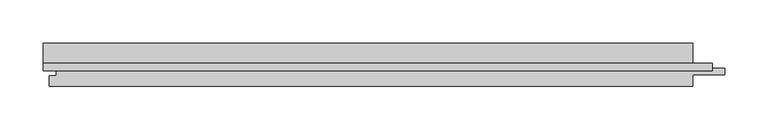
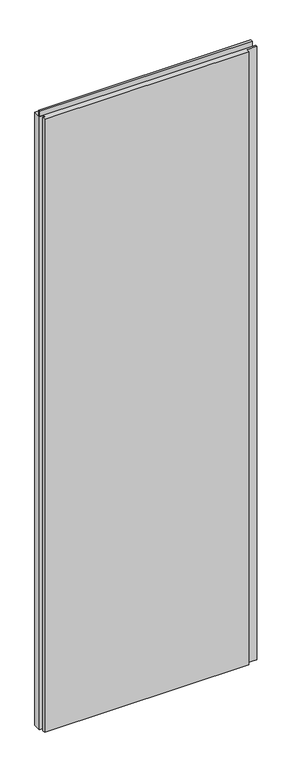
"""IFC4 building model written with IfcOpenShell, lengths in millimetres: plate geometry, Trimo_Qbiss Screen_Normal Panel-VERTICAL : HR - B."""

import ifcopenshell
import ifcopenshell.guid

model = None  # the IFC model being written
_history = None  # IfcOwnerHistory: only IFC2X3 demands one
_inside = {}  # id of a spatial element -> (the spatial element, [elements in it])
_under = {}  # id of a project, library or spatial element -> (it, [spatial elements below it])
_declared = {}  # id of a project -> (the project, [libraries it declares])
_typed = {}  # id of a type object -> (the type object, [elements of that type])
_made_of = {}  # id of a material, layer set ... -> (it, [elements and type objects made of it])


def new_model(schema):
    """Start an empty IFC model of exactly this schema.

    Asked for "IFC4X3", IfcOpenShell would pick the latest addendum, in which some entities
    have other attributes; the version numbers below select the first issue.
    IFC2X3 requires an IfcOwnerHistory on every rooted entity: one is made here for all.
    """
    global model, _history
    if schema == "IFC4X3":
        model = ifcopenshell.file(schema_version=(4, 3, 0, 0))
    else:
        model = ifcopenshell.file(schema=schema)
    _inside.clear()
    _under.clear()
    _declared.clear()
    _typed.clear()
    _made_of.clear()
    _history = None
    if model.schema == "IFC2X3":
        org = make("IfcOrganization", Name="unknown")
        user = make(
            "IfcPersonAndOrganization",
            ThePerson=make("IfcPerson", FamilyName="unknown"),
            TheOrganization=org,
        )
        app = make(
            "IfcApplication",
            ApplicationDeveloper=org,
            Version="unknown",
            ApplicationFullName="unknown",
            ApplicationIdentifier="unknown",
        )
        _history = make(
            "IfcOwnerHistory",
            OwningUser=user,
            OwningApplication=app,
            ChangeAction="ADDED",
            CreationDate=0,
        )
    return model


def make(cls, **values):
    """One entity of the class cls with the attributes given. An attribute that is None is left unset."""
    return model.create_entity(
        cls, **{name: value for name, value in values.items() if value is not None}
    )


def rooted(cls, **values):
    """An entity with a GlobalId (a new one), such as an element, a storey or a relation."""
    return make(cls, GlobalId=ifcopenshell.guid.new(), OwnerHistory=_history, **values)


def si_unit(unit_type, name, prefix=None):
    """IfcSIUnit, for example si_unit("LENGTHUNIT", "METRE", prefix="MILLI")."""
    return make("IfcSIUnit", UnitType=unit_type, Prefix=prefix, Name=name)


def assignment(units):
    """IfcUnitAssignment: the units of a project."""
    return None if units is None else make("IfcUnitAssignment", Units=units)


def point(xyz):
    """IfcCartesianPoint."""
    return None if xyz is None else make("IfcCartesianPoint", Coordinates=xyz)


def direction(xyz):
    """IfcDirection."""
    return None if xyz is None else make("IfcDirection", DirectionRatios=xyz)


def frame(location, z_axis=None, x_axis=None):
    """IfcAxis2Placement3D, a coordinate frame: its origin and axes. An axis left out is left unset."""
    return make(
        "IfcAxis2Placement3D",
        Location=point(location),
        Axis=direction(z_axis),
        RefDirection=direction(x_axis),
    )


def origin():
    """The frame at (0, 0, 0) with its axes left unset."""
    return frame((0.0, 0.0, 0.0))


def place(relative_to, where):
    """IfcLocalPlacement: puts the frame where relative to a parent placement (None: the world)."""
    return make(
        "IfcLocalPlacement", PlacementRelTo=relative_to, RelativePlacement=where
    )


def context(
    kind, dimensions, precision=None, world=None, true_north=None, identifier=None
):
    """IfcGeometricRepresentationContext, for example the 3D "Model" context."""
    return make(
        "IfcGeometricRepresentationContext",
        ContextIdentifier=identifier,
        ContextType=kind,
        CoordinateSpaceDimension=dimensions,
        Precision=precision,
        WorldCoordinateSystem=world,
        TrueNorth=true_north,
    )


def project(units=None, contexts=None):
    """IfcProject with its units and contexts."""
    return rooted(
        "IfcProject",
        Name="project",
        RepresentationContexts=contexts,
        UnitsInContext=assignment(units),
    )


def spatial(cls, under=None, at=None, **own):
    """A site, building, storey or space (cls), placed at a placement, below another one or the project."""
    s = rooted(cls, ObjectPlacement=at, **own)
    if under is not None:
        _under.setdefault(under.id(), (under, []))[1].append(s)
    return s


def polyline(points):
    """IfcPolyline through the points."""
    return make("IfcPolyline", Points=[point(p) for p in points])


def outline(outer, holes=None, kind="AREA"):
    """IfcArbitraryClosedProfileDef: a profile drawn as a closed curve; with holes, ...WithVoids."""
    if holes is None:
        return make("IfcArbitraryClosedProfileDef", ProfileType=kind, OuterCurve=outer)
    return make(
        "IfcArbitraryProfileDefWithVoids",
        ProfileType=kind,
        OuterCurve=outer,
        InnerCurves=holes,
    )


def extrude(swept, where, along, depth):
    """IfcExtrudedAreaSolid: the profile swept, set in the frame where, extruded along a direction by depth."""
    return make(
        "IfcExtrudedAreaSolid",
        SweptArea=swept,
        Position=where,
        ExtrudedDirection=direction(along),
        Depth=depth,
    )


def shape(context_of_items, identifier, shape_type, items):
    """IfcShapeRepresentation: the items that make up one representation, for example the "Body"."""
    return make(
        "IfcShapeRepresentation",
        ContextOfItems=context_of_items,
        RepresentationIdentifier=identifier,
        RepresentationType=shape_type,
        Items=items,
    )


def source(mapping_origin, context_of_items, identifier, shape_type, items):
    """IfcRepresentationMap: a shape defined once, which mapped items show again and again."""
    return make(
        "IfcRepresentationMap",
        MappingOrigin=mapping_origin,
        MappedRepresentation=shape(context_of_items, identifier, shape_type, items),
    )


def transform(
    local_origin,
    x_axis=None,
    y_axis=None,
    z_axis=None,
    scale=None,
    scale2=None,
    scale3=None,
    uniform=True,
):
    """IfcCartesianTransformationOperator3D, or its non-uniform kind. x_axis, y_axis, z_axis: its Axis1, 2, 3."""
    if uniform:
        return make(
            "IfcCartesianTransformationOperator3D",
            Axis1=direction(x_axis),
            Axis2=direction(y_axis),
            LocalOrigin=point(local_origin),
            Scale=scale,
            Axis3=direction(z_axis),
        )
    return make(
        "IfcCartesianTransformationOperator3DnonUniform",
        Axis1=direction(x_axis),
        Axis2=direction(y_axis),
        LocalOrigin=point(local_origin),
        Scale=scale,
        Axis3=direction(z_axis),
        Scale2=scale2,
        Scale3=scale3,
    )


def mapped(mapping_source, mapping_target):
    """IfcMappedItem: shows the shape of a source again, moved by a transform."""
    return make(
        "IfcMappedItem", MappingSource=mapping_source, MappingTarget=mapping_target
    )


def made_of(thing, what):
    """Note that an element or type object is made of a material, layer set ...; save() writes the relation."""
    if what is not None:
        _made_of.setdefault(what.id(), (what, []))[1].append(thing)
    return thing


def element(
    cls,
    number,
    at=None,
    inside=None,
    cuts=None,
    type_object=None,
    material=None,
    context=None,
    identifier="Body",
    shape_type=None,
    held_by="IfcProductDefinitionShape",
    body=None,
    shapes=None,
    **own,
):
    """One element of the class cls, such as IfcWall. Its Tag is "e" and its number.

    at: its placement. inside: the storey or other place that contains it. cuts: it is an
    opening in that element (IfcRelVoidsElement). A single representation is given by context,
    identifier, shape_type and body (its items); several are given by shapes. held_by: the class
    of the entity that holds the representations. save() writes the other relations.
    """
    e = rooted(cls, Tag="e%d" % number, ObjectPlacement=at, **own)
    if body is not None:
        shapes = [shape(context, identifier, shape_type, body)]
    if shapes is not None:
        e.Representation = make(held_by, Representations=shapes)
    if inside is not None:
        _inside.setdefault(inside.id(), (inside, []))[1].append(e)
    if cuts is not None:
        rooted(
            "IfcRelVoidsElement", RelatingBuildingElement=cuts, RelatedOpeningElement=e
        )
    if type_object is not None:
        _typed.setdefault(type_object.id(), (type_object, []))[1].append(e)
    return made_of(e, material)


def aggregate(whole, parts):
    """IfcRelAggregates: a whole, such as a stair, and the parts it consists of."""
    return rooted("IfcRelAggregates", RelatingObject=whole, RelatedObjects=parts)


def save(model, path):
    """Write the relations noted so far, then the file.

    IfcRelAggregates (storeys below a building ...), IfcRelContainedInSpatialStructure (elements
    in a storey), IfcRelDefinesByType, IfcRelAssociatesMaterial and IfcRelDeclares: one each for
    every whole, place, type object, material and project.
    """
    for whole, parts in _under.values():
        aggregate(whole, parts)
    for where, things in _inside.values():
        rooted(
            "IfcRelContainedInSpatialStructure",
            RelatedElements=things,
            RelatingStructure=where,
        )
    for kind, things in _typed.values():
        rooted("IfcRelDefinesByType", RelatedObjects=things, RelatingType=kind)
    for what, things in _made_of.values():
        rooted("IfcRelAssociatesMaterial", RelatedObjects=things, RelatingMaterial=what)
    for by, libraries in _declared.values():
        rooted("IfcRelDeclares", RelatingContext=by, RelatedDefinitions=libraries)
    model.write(path)


def plate_6f68b0d8(model_context):
    return source(origin(), model_context, "Body", "SweptSolid", [
        extrude(outline(polyline([(-425.0, 93.9), (-425.0, 102.6), (352.0, 102.6), (352.0, 93.9), (-425.0, 93.9)])), frame((0.0, 0.0, 2390.5), z_axis=(0.0, 0.0, 1.0), x_axis=(1.0, 0.0, 0.0)), (0.0, 0.0, 1.0), 19.0),
        extrude(outline(polyline([(329.0, 97.0), (366.5, 97.0), (366.5, 89.0), (329.0, 89.0), (329.0, 76.0), (-418.0, 76.0), (-418.0, 88.0), (-409.5, 88.0), (-409.5, 98.0), (-425.0, 98.0), (-425.0, 126.0), (329.0, 126.0), (329.0, 97.0)])), frame((0.0, 0.0, 12.5), z_axis=(0.0, 0.0, 1.0), x_axis=(1.0, 0.0, 0.0)), (0.0, 0.0, 1.0), 2375.0),
    ])


if __name__ == "__main__":
    model = new_model("IFC4")
    model_context = context("Model", 3, world=origin())
    ifc_project = project(units=[si_unit("LENGTHUNIT", "METRE", prefix="MILLI")], contexts=[model_context])
    site = spatial("IfcSite", under=ifc_project)
    building = spatial("IfcBuilding", under=site)
    placement = place(None, origin())
    plate_shape = plate_6f68b0d8(model_context)
    element("IfcPlate", 1, ObjectType="Trimo_Qbiss Screen_Normal Panel-VERTICAL : HR - B", at=placement, inside=building, context=model_context, shape_type="MappedRepresentation", body=[
        mapped(plate_shape, transform((0.0, 0.0, 0.0), x_axis=(1.0, 0.0, 0.0), y_axis=(0.0, 1.0, 0.0), z_axis=(0.0, 0.0, 1.0))),
    ])
    save(model, "model.ifc")
